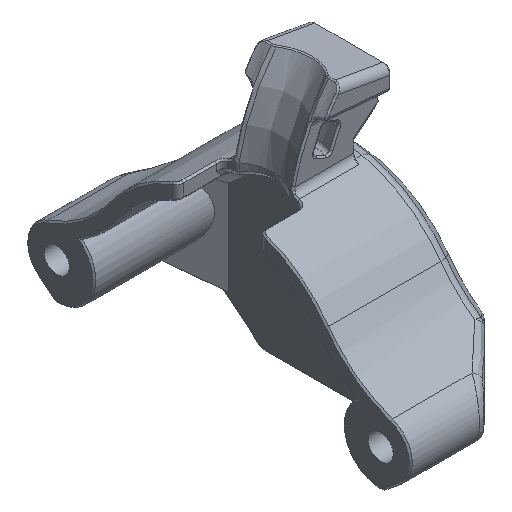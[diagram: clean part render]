
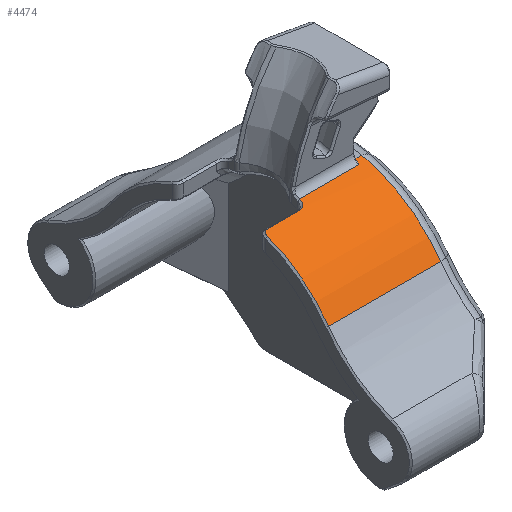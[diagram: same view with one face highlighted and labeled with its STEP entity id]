
A CAD part, isometric view. The second image highlights one B-rep face of the part: STEP entity #4474.
In plain terms, the highlighted cylindrical face has radius 18 mm (diameter 36 mm), a partial arc.
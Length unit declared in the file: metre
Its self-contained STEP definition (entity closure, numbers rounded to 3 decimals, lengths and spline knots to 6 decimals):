
#331=CIRCLE('',#4845,0.018);
#332=CIRCLE('',#4846,0.018);
#333=CIRCLE('',#4847,0.018);
#334=CIRCLE('',#4848,0.018);
#520=LINE('',#6805,#818);
#521=LINE('',#6815,#819);
#522=LINE('',#6824,#820);
#523=LINE('',#6836,#821);
#818=VECTOR('',#5436,1.);
#819=VECTOR('',#5439,1.);
#820=VECTOR('',#5442,1.);
#821=VECTOR('',#5445,1.);
#1219=ORIENTED_EDGE('',*,*,#2620,.F.);
#1220=ORIENTED_EDGE('',*,*,#2621,.T.);
#1221=ORIENTED_EDGE('',*,*,#2622,.T.);
#1222=ORIENTED_EDGE('',*,*,#2623,.T.);
#1223=ORIENTED_EDGE('',*,*,#2624,.T.);
#1224=ORIENTED_EDGE('',*,*,#2625,.T.);
#1225=ORIENTED_EDGE('',*,*,#2626,.T.);
#1226=ORIENTED_EDGE('',*,*,#2627,.T.);
#1227=ORIENTED_EDGE('',*,*,#2628,.T.);
#1228=ORIENTED_EDGE('',*,*,#2629,.T.);
#1229=ORIENTED_EDGE('',*,*,#2630,.T.);
#1230=ORIENTED_EDGE('',*,*,#2631,.T.);
#2620=EDGE_CURVE('',#3318,#3319,#520,.T.);
#2621=EDGE_CURVE('',#3318,#3320,#331,.F.);
#2622=EDGE_CURVE('',#3320,#3321,#3594,.T.);
#2623=EDGE_CURVE('',#3321,#3322,#521,.T.);
#2624=EDGE_CURVE('',#3322,#3323,#332,.F.);
#2625=EDGE_CURVE('',#3323,#3324,#3595,.T.);
#2626=EDGE_CURVE('',#3324,#3325,#522,.T.);
#2627=EDGE_CURVE('',#3325,#3326,#333,.F.);
#2628=EDGE_CURVE('',#3326,#3327,#3596,.T.);
#2629=EDGE_CURVE('',#3327,#3328,#523,.T.);
#2630=EDGE_CURVE('',#3328,#3329,#3597,.T.);
#2631=EDGE_CURVE('',#3329,#3319,#334,.T.);
#3318=VERTEX_POINT('',#6806);
#3319=VERTEX_POINT('',#6807);
#3320=VERTEX_POINT('',#6809);
#3321=VERTEX_POINT('',#6814);
#3322=VERTEX_POINT('',#6816);
#3323=VERTEX_POINT('',#6818);
#3324=VERTEX_POINT('',#6823);
#3325=VERTEX_POINT('',#6825);
#3326=VERTEX_POINT('',#6827);
#3327=VERTEX_POINT('',#6835);
#3328=VERTEX_POINT('',#6837);
#3329=VERTEX_POINT('',#6842);
#3594=B_SPLINE_CURVE_WITH_KNOTS('',3,(#6810,#6811,#6812,#6813),
 .UNSPECIFIED.,.F.,.F.,(4,4),(0.,0.000041),.UNSPECIFIED.);
#3595=B_SPLINE_CURVE_WITH_KNOTS('',3,(#6819,#6820,#6821,#6822),
 .UNSPECIFIED.,.F.,.F.,(4,4),(0.,0.000678),.UNSPECIFIED.);
#3596=B_SPLINE_CURVE_WITH_KNOTS('',3,(#6828,#6829,#6830,#6831,#6832,#6833,
#6834),.UNSPECIFIED.,.F.,.F.,(4,1,1,1,4),(0.,0.25,0.5,0.75,1.),
 .UNSPECIFIED.);
#3597=B_SPLINE_CURVE_WITH_KNOTS('',3,(#6838,#6839,#6840,#6841),
 .UNSPECIFIED.,.F.,.F.,(4,4),(0.,1.),.UNSPECIFIED.);
#3820=EDGE_LOOP('',(#1219,#1220,#1221,#1222,#1223,#1224,#1225,#1226,#1227,
#1228,#1229,#1230));
#4125=FACE_BOUND('',#3820,.T.);
#4405=CYLINDRICAL_SURFACE('',#4844,0.018);
#4474=ADVANCED_FACE('',(#4125),#4405,.T.);
#4844=AXIS2_PLACEMENT_3D('',#6804,#5434,#5435);
#4845=AXIS2_PLACEMENT_3D('',#6808,#5437,#5438);
#4846=AXIS2_PLACEMENT_3D('',#6817,#5440,#5441);
#4847=AXIS2_PLACEMENT_3D('',#6826,#5443,#5444);
#4848=AXIS2_PLACEMENT_3D('',#6843,#5446,#5447);
#5434=DIRECTION('',(-1.,0.,0.));
#5435=DIRECTION('',(0.,0.,1.));
#5436=DIRECTION('',(-1.,0.,0.));
#5437=DIRECTION('',(1.,0.,0.));
#5438=DIRECTION('',(0.,0.,-1.));
#5439=DIRECTION('',(-1.,0.,0.));
#5440=DIRECTION('',(-1.,0.,0.));
#5441=DIRECTION('',(0.,0.,1.));
#5442=DIRECTION('',(-1.,0.,0.));
#5443=DIRECTION('',(-1.,0.,0.));
#5444=DIRECTION('',(0.,0.,1.));
#5445=DIRECTION('',(-1.,0.,0.));
#5446=DIRECTION('',(1.,0.,0.));
#5447=DIRECTION('',(0.,0.,-1.));
#6804=CARTESIAN_POINT('',(0.072069,-0.007956,0.101948));
#6805=CARTESIAN_POINT('',(0.072069,-0.022646,0.112349));
#6806=CARTESIAN_POINT('',(0.069448,-0.022646,0.112349));
#6807=CARTESIAN_POINT('',(0.054269,-0.022646,0.112349));
#6808=CARTESIAN_POINT('',(0.069448,-0.007956,0.101948));
#6809=CARTESIAN_POINT('',(0.069448,-0.011958,0.119497));
#6810=CARTESIAN_POINT('',(0.069448,-0.011958,0.119497));
#6811=CARTESIAN_POINT('',(0.069434,-0.011957,0.119497));
#6812=CARTESIAN_POINT('',(0.06942,-0.011956,0.119498));
#6813=CARTESIAN_POINT('',(0.069407,-0.011956,0.119498));
#6814=CARTESIAN_POINT('',(0.069407,-0.011956,0.119498));
#6815=CARTESIAN_POINT('',(0.072071,-0.011956,0.119498));
#6816=CARTESIAN_POINT('',(0.068494,-0.011956,0.119498));
#6817=CARTESIAN_POINT('',(0.068494,-0.007956,0.101948));
#6818=CARTESIAN_POINT('',(0.068494,-0.012067,0.119472));
#6819=CARTESIAN_POINT('',(0.068494,-0.012067,0.119472));
#6820=CARTESIAN_POINT('',(0.068494,-0.01229,0.11942));
#6821=CARTESIAN_POINT('',(0.068388,-0.012495,0.119367));
#6822=CARTESIAN_POINT('',(0.068294,-0.012693,0.119313));
#6823=CARTESIAN_POINT('',(0.068294,-0.012693,0.119313));
#6824=CARTESIAN_POINT('',(0.072069,-0.012693,0.119313));
#6825=CARTESIAN_POINT('',(0.060269,-0.012693,0.119313));
#6826=CARTESIAN_POINT('',(0.060269,-0.007956,0.101948));
#6827=CARTESIAN_POINT('',(0.060269,-0.012709,0.119309));
#6828=CARTESIAN_POINT('',(0.060269,-0.012709,0.119309));
#6829=CARTESIAN_POINT('',(0.060272,-0.012842,0.119272));
#6830=CARTESIAN_POINT('',(0.06023,-0.013091,0.119201));
#6831=CARTESIAN_POINT('',(0.06,-0.013431,0.119096));
#6832=CARTESIAN_POINT('',(0.059658,-0.013677,0.119015));
#6833=CARTESIAN_POINT('',(0.059406,-0.013722,0.118999));
#6834=CARTESIAN_POINT('',(0.059269,-0.01372,0.119));
#6835=CARTESIAN_POINT('',(0.059269,-0.01372,0.119));
#6836=CARTESIAN_POINT('',(0.072069,-0.01372,0.119));
#6837=CARTESIAN_POINT('',(0.054869,-0.01372,0.119));
#6838=CARTESIAN_POINT('',(0.054869,-0.01372,0.119));
#6839=CARTESIAN_POINT('',(0.054536,-0.013716,0.119001));
#6840=CARTESIAN_POINT('',(0.054259,-0.014012,0.118902));
#6841=CARTESIAN_POINT('',(0.054269,-0.014327,0.118783));
#6842=CARTESIAN_POINT('',(0.054269,-0.014327,0.118783));
#6843=CARTESIAN_POINT('',(0.054269,-0.007956,0.101948));
